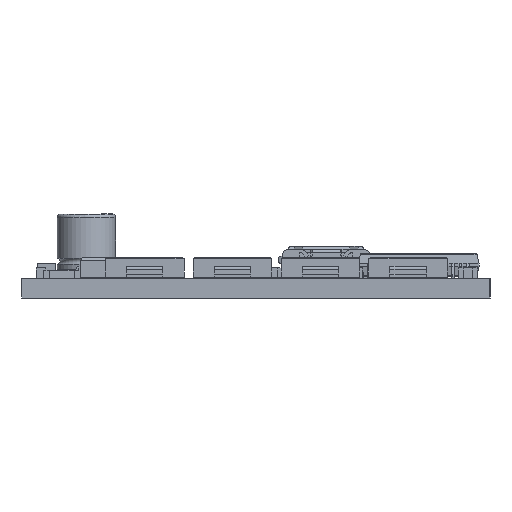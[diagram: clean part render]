
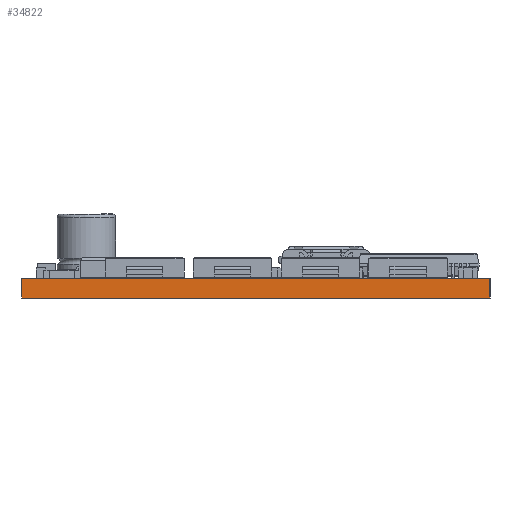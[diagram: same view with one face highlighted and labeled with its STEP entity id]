
A CAD part, left-side view. The second image highlights one B-rep face of the part: STEP entity #34822.
In plain terms, the highlighted planar face has unit normal (-1, 0, 0).
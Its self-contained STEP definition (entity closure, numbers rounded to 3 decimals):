
#1763=PLANE('',#37263);
#3136=FACE_OUTER_BOUND('',#4933,.T.);
#4933=EDGE_LOOP('',(#25342,#25343,#25344,#25345));
#7528=LINE('',#51517,#11292);
#7536=LINE('',#51532,#11300);
#7537=LINE('',#51534,#11301);
#7538=LINE('',#51535,#11302);
#11292=VECTOR('',#41800,10.);
#11300=VECTOR('',#41812,10.);
#11301=VECTOR('',#41815,10.);
#11302=VECTOR('',#41816,10.);
#16300=VERTEX_POINT('',#51514);
#16301=VERTEX_POINT('',#51516);
#16305=VERTEX_POINT('',#51528);
#16306=VERTEX_POINT('',#51530);
#19929=EDGE_CURVE('',#16300,#16301,#7528,.T.);
#19937=EDGE_CURVE('',#16305,#16306,#7536,.T.);
#19938=EDGE_CURVE('',#16300,#16305,#7537,.T.);
#19939=EDGE_CURVE('',#16301,#16306,#7538,.T.);
#25342=ORIENTED_EDGE('',*,*,#19938,.T.);
#25343=ORIENTED_EDGE('',*,*,#19937,.T.);
#25344=ORIENTED_EDGE('',*,*,#19939,.F.);
#25345=ORIENTED_EDGE('',*,*,#19929,.F.);
#34822=ADVANCED_FACE('',(#3136),#1763,.T.);
#37263=AXIS2_PLACEMENT_3D('',#51533,#41813,#41814);
#41800=DIRECTION('',(0.,0.,1.));
#41812=DIRECTION('',(0.,0.,1.));
#41813=DIRECTION('center_axis',(-1.,0.,0.));
#41814=DIRECTION('ref_axis',(0.,-1.,0.));
#41815=DIRECTION('',(0.,-1.,0.));
#41816=DIRECTION('',(0.,-1.,0.));
#51514=CARTESIAN_POINT('',(0.,40.,0.));
#51516=CARTESIAN_POINT('',(0.,40.,1.67));
#51517=CARTESIAN_POINT('',(0.,40.,0.));
#51528=CARTESIAN_POINT('',(0.,0.,0.));
#51530=CARTESIAN_POINT('',(0.,0.,1.67));
#51532=CARTESIAN_POINT('',(0.,0.,0.));
#51533=CARTESIAN_POINT('Origin',(0.,40.,0.));
#51534=CARTESIAN_POINT('',(0.,40.,0.));
#51535=CARTESIAN_POINT('',(0.,40.,1.67));
